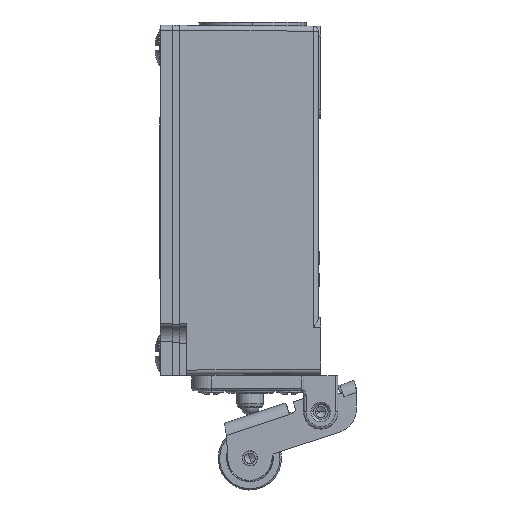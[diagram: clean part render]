
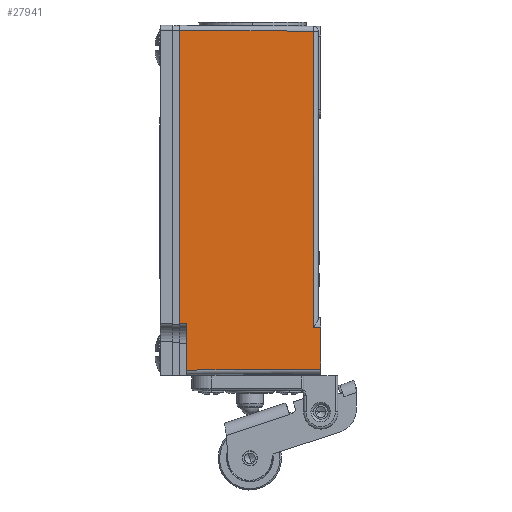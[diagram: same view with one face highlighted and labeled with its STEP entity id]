
A CAD part, left-side view. The second image highlights one B-rep face of the part: STEP entity #27941.
In plain terms, the highlighted planar face has unit normal (-1, -0.007, 0).
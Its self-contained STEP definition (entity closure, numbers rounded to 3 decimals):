
#7622=DIRECTION('',(0.,0.,-1.));
#7623=VECTOR('',#7622,60.3);
#7624=CARTESIAN_POINT('',(-18.,14.5,71.));
#7625=LINE('',#7624,#7623);
#7921=DIRECTION('',(0.,0.,-1.));
#7922=VECTOR('',#7921,8.6);
#7923=CARTESIAN_POINT('',(-17.8,-14.5,10.));
#7924=LINE('',#7923,#7922);
#7928=DIRECTION('',(0.,0.,-1.));
#7929=VECTOR('',#7928,9.49);
#7930=CARTESIAN_POINT('',(-17.99,13.,10.7));
#7931=LINE('',#7930,#7929);
#7935=DIRECTION('',(0.007,-1.,0.));
#7936=VECTOR('',#7935,1.5);
#7937=CARTESIAN_POINT('',(-18.,14.5,10.7));
#7938=LINE('',#7937,#7936);
#7942=DIRECTION('',(0.,0.,-1.));
#7943=VECTOR('',#7942,60.81);
#7944=CARTESIAN_POINT('',(-17.81,-13.007,
70.81));
#7945=LINE('',#7944,#7943);
#7996=DIRECTION('',(-0.007,1.,0.007));
#7997=VECTOR('',#7996,27.508);
#7998=CARTESIAN_POINT('',(-17.81,-13.007,
70.81));
#7999=LINE('',#7998,#7997);
#8003=CARTESIAN_POINT('',(-18.,14.5,71.));
#8293=DIRECTION('',(-0.007,1.,0.));
#8294=VECTOR('',#8293,1.493);
#8295=CARTESIAN_POINT('',(-17.8,-14.5,10.));
#8296=LINE('',#8295,#8294);
#8326=CARTESIAN_POINT('',(-17.8,-14.5,10.));
#8365=DIRECTION('',(0.007,-1.,0.007));
#8366=VECTOR('',#8365,27.501);
#8367=CARTESIAN_POINT('',(-17.99,13.,1.21));
#8368=LINE('',#8367,#8366);
#18435=VERTEX_POINT('',#8326);
#18444=CARTESIAN_POINT('',(-18.,14.5,10.7));
#18445=CARTESIAN_POINT('',(-17.99,13.,10.7));
#18446=VERTEX_POINT('',#18444);
#18447=VERTEX_POINT('',#18445);
#18500=VERTEX_POINT('',#8003);
#18510=CARTESIAN_POINT('',(-17.8,-14.5,1.4));
#18511=VERTEX_POINT('',#18510);
#18512=CARTESIAN_POINT('',(-17.99,13.,1.21));
#18513=VERTEX_POINT('',#18512);
#18530=CARTESIAN_POINT('',(-17.81,-13.007,
70.81));
#18531=CARTESIAN_POINT('',(-17.81,-13.007,10.));
#18532=VERTEX_POINT('',#18530);
#18533=VERTEX_POINT('',#18531);
#27921=CARTESIAN_POINT('',(-17.8,-14.5,0.));
#27922=DIRECTION('',(-1.,-0.007,0.));
#27923=DIRECTION('',(-0.007,1.,0.));
#27924=AXIS2_PLACEMENT_3D('',#27921,#27922,#27923);
#27925=PLANE('',#27924);
#27927=ORIENTED_EDGE('',*,*,#27926,.T.);
#27929=ORIENTED_EDGE('',*,*,#27928,.F.);
#27930=ORIENTED_EDGE('',*,*,#21586,.T.);
#27932=ORIENTED_EDGE('',*,*,#27931,.F.);
#27934=ORIENTED_EDGE('',*,*,#27933,.F.);
#27935=ORIENTED_EDGE('',*,*,#27906,.F.);
#27936=ORIENTED_EDGE('',*,*,#27549,.F.);
#27938=ORIENTED_EDGE('',*,*,#27937,.F.);
#27939=EDGE_LOOP('',(#27927,#27929,#27930,#27932,#27934,#27935,#27936,#27938));
#27940=FACE_OUTER_BOUND('',#27939,.F.);
#21586=EDGE_CURVE('',#18435,#18511,#7924,.T.);
#27549=EDGE_CURVE('',#18500,#18446,#7625,.T.);
#27906=EDGE_CURVE('',#18446,#18447,#7938,.T.);
#27926=EDGE_CURVE('',#18532,#18533,#7945,.T.);
#27928=EDGE_CURVE('',#18435,#18533,#8296,.T.);
#27931=EDGE_CURVE('',#18513,#18511,#8368,.T.);
#27933=EDGE_CURVE('',#18447,#18513,#7931,.T.);
#27937=EDGE_CURVE('',#18532,#18500,#7999,.T.);
#27941=ADVANCED_FACE('',(#27940),#27925,.T.);
